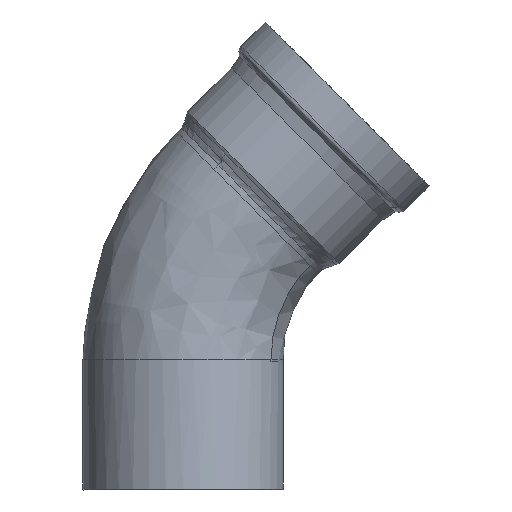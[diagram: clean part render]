
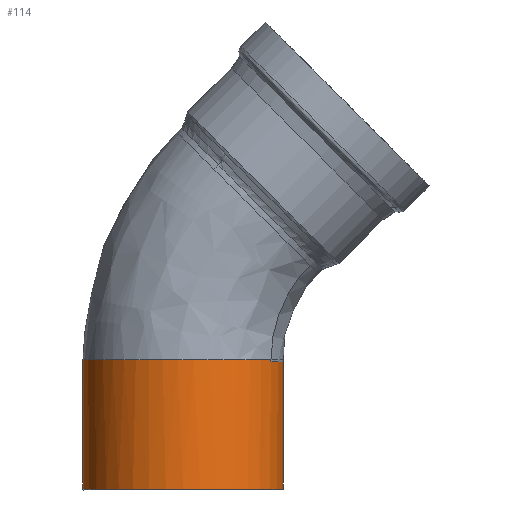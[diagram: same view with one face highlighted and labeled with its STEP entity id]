
A CAD part, front view. The second image highlights one B-rep face of the part: STEP entity #114.
In plain terms, the highlighted free-form (B-spline) face has degree [1, 2] with [2, 5] control points.
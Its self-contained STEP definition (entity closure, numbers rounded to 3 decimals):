
#114=ADVANCED_FACE('',(#224),#225,.T.);
#224=FACE_OUTER_BOUND('',#911,.T.);
#225=(B_SPLINE_SURFACE(1,2,((#913,#914,#915,#916,#917),(#918,#919,#920,#921,#922)),.UNSPECIFIED.,.F.,.F.,.F.)B_SPLINE_SURFACE_WITH_KNOTS((2,2),(3,2,3),(0.0,0.992),(0.0,0.564,0.971),.UNSPECIFIED.)RATIONAL_B_SPLINE_SURFACE(((1.0,0.5,1.0,0.639,0.799),(1.0,0.5,1.0,0.639,0.799)))BOUNDED_SURFACE()REPRESENTATION_ITEM('')GEOMETRIC_REPRESENTATION_ITEM()SURFACE());
#911=EDGE_LOOP('',(#1182,#1183,#1184,#1185,#1186,#1187,#1188,#1189,#1190));
#913=CARTESIAN_POINT('',(-44.529,24.326,-46.392));
#914=CARTESIAN_POINT('',(-86.662,-52.8,-46.392));
#915=CARTESIAN_POINT('',(1.197,-50.726,-46.392));
#916=CARTESIAN_POINT('',(50.748,-49.556,-46.392));
#917=CARTESIAN_POINT('',(50.74,0.008,-46.392));
#918=CARTESIAN_POINT('',(-44.529,24.326,-112.003));
#919=CARTESIAN_POINT('',(-86.662,-52.8,-112.003));
#920=CARTESIAN_POINT('',(1.197,-50.726,-112.003));
#921=CARTESIAN_POINT('',(50.748,-49.556,-112.003));
#922=CARTESIAN_POINT('',(50.74,0.008,-112.003));
#1182=ORIENTED_EDGE('',*,*,#1309,.T.);
#1183=ORIENTED_EDGE('',*,*,#1310,.T.);
#1184=ORIENTED_EDGE('',*,*,#1227,.T.);
#1185=ORIENTED_EDGE('',*,*,#1295,.T.);
#1186=ORIENTED_EDGE('',*,*,#1311,.T.);
#1187=ORIENTED_EDGE('',*,*,#1312,.T.);
#1188=ORIENTED_EDGE('',*,*,#1313,.T.);
#1189=ORIENTED_EDGE('',*,*,#1289,.T.);
#1190=ORIENTED_EDGE('',*,*,#1314,.T.);
#1227=EDGE_CURVE('',#1361,#1359,#1362,.T.);
#1289=EDGE_CURVE('',#1449,#1450,#1451,.T.);
#1295=EDGE_CURVE('',#1359,#1457,#1459,.T.);
#1309=EDGE_CURVE('',#1475,#1476,#1477,.T.);
#1310=EDGE_CURVE('',#1476,#1361,#1478,.T.);
#1311=EDGE_CURVE('',#1457,#1479,#1480,.T.);
#1312=EDGE_CURVE('',#1479,#1481,#1482,.T.);
#1313=EDGE_CURVE('',#1481,#1449,#1483,.T.);
#1314=EDGE_CURVE('',#1450,#1475,#1484,.T.);
#1359=VERTEX_POINT('',#1766);
#1361=VERTEX_POINT('',#1769);
#1362=CIRCLE('',#1770,50.737);
#1449=VERTEX_POINT('',#2037);
#1450=VERTEX_POINT('',#2038);
#1451=(B_SPLINE_CURVE(2,(#2040,#2041,#2042,#2043,#2044),.UNSPECIFIED.,.F.,.F.)B_SPLINE_CURVE_WITH_KNOTS((3,2,3),(0.,1.571,3.142),.UNSPECIFIED.)RATIONAL_B_SPLINE_CURVE((1.0,0.707,1.0,0.707,1.0))BOUNDED_CURVE()REPRESENTATION_ITEM('')GEOMETRIC_REPRESENTATION_ITEM()CURVE());
#1457=VERTEX_POINT('',#2107);
#1459=CIRCLE('',#2109,50.737);
#1475=VERTEX_POINT('',#2224);
#1476=VERTEX_POINT('',#2225);
#1477=B_SPLINE_CURVE_WITH_KNOTS('',3,(#2226,#2227,#2228,#2229,#2230,#2231),.UNSPECIFIED.,.F.,.F.,(4,2,4),(0.0,0.5,1.0),.UNSPECIFIED.);
#1478=LINE('',#2232,#2233);
#1479=VERTEX_POINT('',#2234);
#1480=LINE('',#2235,#2236);
#1481=VERTEX_POINT('',#2237);
#1482=B_SPLINE_CURVE_WITH_KNOTS('',3,(#2238,#2239,#2240,#2241,#2242,#2243),.UNSPECIFIED.,.F.,.F.,(4,2,4),(0.0,0.5,1.0),.UNSPECIFIED.);
#1483=LINE('',#2244,#2245);
#1484=LINE('',#2246,#2247);
#1766=CARTESIAN_POINT('',(0.,-50.738,-112.));
#1769=CARTESIAN_POINT('',(-50.737,0.,-112.));
#1770=AXIS2_PLACEMENT_3D('',#2254,#2255,#2256);
#2037=CARTESIAN_POINT('',(44.529,-24.326,-46.392));
#2038=CARTESIAN_POINT('',(-44.529,24.326,-46.392));
#2040=CARTESIAN_POINT('',(44.529,-24.326,-46.392));
#2041=CARTESIAN_POINT('',(20.202,-68.855,-46.392));
#2042=CARTESIAN_POINT('',(-24.326,-44.529,-46.392));
#2043=CARTESIAN_POINT('',(-68.855,-20.202,-46.392));
#2044=CARTESIAN_POINT('',(-44.529,24.326,-46.392));
#2107=CARTESIAN_POINT('',(50.737,0.,-112.));
#2109=AXIS2_PLACEMENT_3D('',#2313,#2314,#2315);
#2224=CARTESIAN_POINT('',(-44.527,24.325,-47.5));
#2225=CARTESIAN_POINT('',(-50.739,0.,-47.5));
#2226=CARTESIAN_POINT('',(-44.527,24.325,-47.5));
#2227=CARTESIAN_POINT('',(-46.555,20.615,-47.5));
#2228=CARTESIAN_POINT('',(-48.116,16.65,-47.5));
#2229=CARTESIAN_POINT('',(-50.208,8.456,-47.5));
#2230=CARTESIAN_POINT('',(-50.739,4.228,-47.5));
#2231=CARTESIAN_POINT('',(-50.739,0.,-47.5));
#2232=CARTESIAN_POINT('',(-50.739,0.,-47.5));
#2233=VECTOR('',#2316,1.0);
#2234=CARTESIAN_POINT('',(50.739,0.,-47.5));
#2235=CARTESIAN_POINT('',(50.737,0.,-112.));
#2236=VECTOR('',#2317,1.0);
#2237=CARTESIAN_POINT('',(44.527,-24.325,-47.5));
#2238=CARTESIAN_POINT('',(50.739,0.,-47.5));
#2239=CARTESIAN_POINT('',(50.739,-4.228,-47.5));
#2240=CARTESIAN_POINT('',(50.207,-8.456,-47.5));
#2241=CARTESIAN_POINT('',(48.115,-16.65,-47.5));
#2242=CARTESIAN_POINT('',(46.555,-20.615,-47.5));
#2243=CARTESIAN_POINT('',(44.527,-24.325,-47.5));
#2244=CARTESIAN_POINT('',(44.527,-24.325,-47.5));
#2245=VECTOR('',#2318,1.0);
#2246=CARTESIAN_POINT('',(-44.529,24.326,-46.392));
#2247=VECTOR('',#2319,1.0);
#2254=CARTESIAN_POINT('',(0.,0.,-112.));
#2255=DIRECTION('',(0.,0.,1.0));
#2256=DIRECTION('',(-1.0,0.,0.));
#2313=CARTESIAN_POINT('',(0.,0.,-112.));
#2314=DIRECTION('',(0.,0.,1.0));
#2315=DIRECTION('',(-1.0,0.,0.));
#2316=DIRECTION('',(0.,0.,-1.));
#2317=DIRECTION('',(0.,0.,1.));
#2318=DIRECTION('',(0.001,-0.001,1.));
#2319=DIRECTION('',(0.001,-0.001,-1.));
